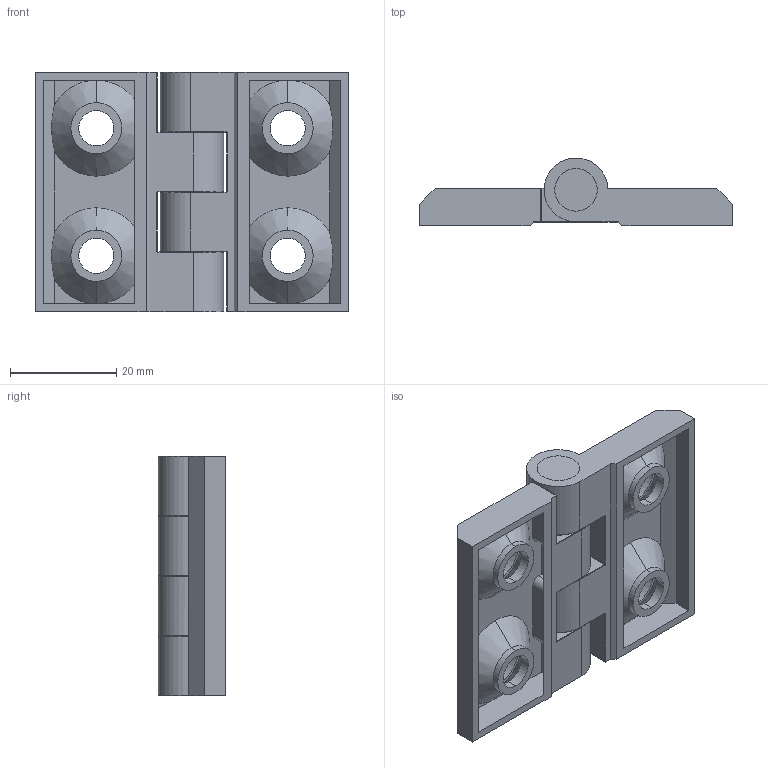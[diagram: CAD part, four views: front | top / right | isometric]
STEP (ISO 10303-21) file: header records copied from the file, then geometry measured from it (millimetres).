
FILE_DESCRIPTION (( 'STEP AP203' ), '1' );
FILE_NAME ('3040郈磁踢磁珜.STEP', '2018-06-06T08:57:27', ( 'China' ), ( 'Home' ), 'SwSTEP 2.0', 'SolidWorks 2013', '' );
FILE_SCHEMA (( 'CONFIG_CONTROL_DESIGN' ));
Length unit declared in the file: millimetre
Products named in the file (3): XHJ35-2; 3040郈磁踢磁珜; XHJ35-1
Assembly tree (2 placements, depth 2):
  3040郈磁踢磁珜
    XHJ35-1
    XHJ35-2
Bounding box: 59 x 12.7 x 45 mm (x, y, z)
Volume: 11396.1 mm3; surface area: 12910.3 mm2
Topology: 3 solids, 3 shells, 176 faces, 442 edges, 278 vertices
Faces by surface type: cylinder 76, plane 64, torus 20, cone 16
Entity records: 5815 total; most frequent: CARTESIAN_POINT 1191, DIRECTION 946, ORIENTED_EDGE 884, EDGE_CURVE 442, AXIS2_PLACEMENT_3D 357, VERTEX_POINT 278, VECTOR 232, LINE 232
